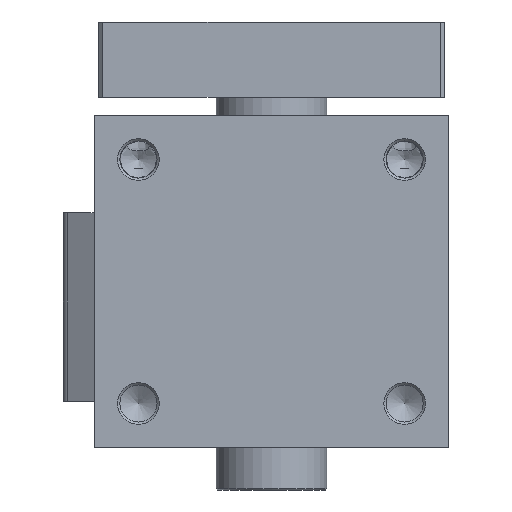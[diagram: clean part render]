
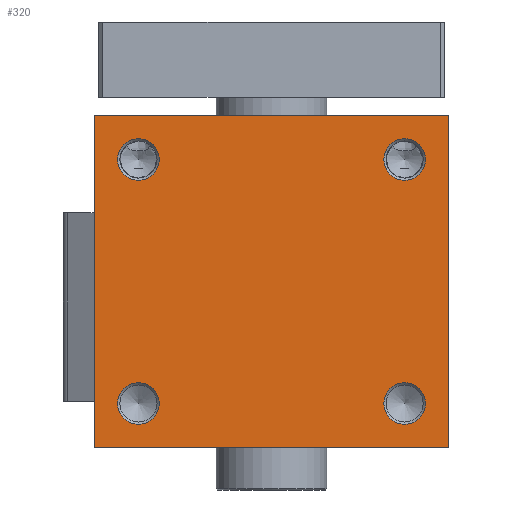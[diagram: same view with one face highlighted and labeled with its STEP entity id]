
A CAD part, left-side view. The second image highlights one B-rep face of the part: STEP entity #320.
In plain terms, the highlighted planar face has unit normal (-1, 0, 0).
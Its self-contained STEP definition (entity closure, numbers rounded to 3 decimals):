
#190=CARTESIAN_POINT('',(-81.641,-41.316,-10.5));
#191=VERTEX_POINT('',#190);
#198=CARTESIAN_POINT('',(-81.641,38.684,-10.5));
#199=VERTEX_POINT('',#198);
#200=CARTESIAN_POINT('',(-81.641,38.684,-10.5));
#201=DIRECTION('',(0.0,-1.0,0.0));
#202=VECTOR('',#201,80.0);
#203=LINE('',#200,#202);
#204=EDGE_CURVE('',#199,#191,#203,.T.);
#242=CARTESIAN_POINT('',(-81.641,28.684,59.188));
#243=VERTEX_POINT('',#242);
#244=CARTESIAN_POINT('',(-81.641,28.684,54.5));
#245=DIRECTION('',(-1.0,0.0,0.0));
#246=DIRECTION('',(0.0,0.0,-1.0));
#247=AXIS2_PLACEMENT_3D('',#244,#245,#246);
#248=CIRCLE('',#247,4.688);
#249=EDGE_CURVE('',#243,#243,#248,.T.);
#254=CARTESIAN_POINT('',(-81.641,-1.316,-10.5));
#255=DIRECTION('',(-1.0,0.0,0.0));
#256=DIRECTION('',(0.0,0.0,1.0));
#257=AXIS2_PLACEMENT_3D('',#254,#255,#256);
#258=PLANE('',#257);
#259=CARTESIAN_POINT('',(-81.641,-41.316,64.5));
#260=VERTEX_POINT('',#259);
#261=CARTESIAN_POINT('',(-81.641,-41.316,-10.5));
#262=DIRECTION('',(0.0,0.0,1.0));
#263=VECTOR('',#262,75.0);
#264=LINE('',#261,#263);
#265=EDGE_CURVE('',#191,#260,#264,.T.);
#266=ORIENTED_EDGE('',*,*,#265,.T.);
#267=CARTESIAN_POINT('',(-81.641,38.684,64.5));
#268=VERTEX_POINT('',#267);
#269=CARTESIAN_POINT('',(-81.641,38.684,64.5));
#270=DIRECTION('',(0.0,-1.0,0.0));
#271=VECTOR('',#270,80.0);
#272=LINE('',#269,#271);
#273=EDGE_CURVE('',#268,#260,#272,.T.);
#274=ORIENTED_EDGE('',*,*,#273,.F.);
#275=CARTESIAN_POINT('',(-81.641,38.684,64.5));
#276=DIRECTION('',(0.0,0.0,-1.0));
#277=VECTOR('',#276,75.0);
#278=LINE('',#275,#277);
#279=EDGE_CURVE('',#268,#199,#278,.T.);
#280=ORIENTED_EDGE('',*,*,#279,.T.);
#281=ORIENTED_EDGE('',*,*,#204,.T.);
#282=EDGE_LOOP('',(#266,#274,#280,#281));
#283=FACE_OUTER_BOUND('',#282,.T.);
#284=CARTESIAN_POINT('',(-81.641,-31.316,59.188));
#285=VERTEX_POINT('',#284);
#286=CARTESIAN_POINT('',(-81.641,-31.316,54.5));
#287=DIRECTION('',(-1.0,0.0,0.0));
#288=DIRECTION('',(0.0,0.0,-1.0));
#289=AXIS2_PLACEMENT_3D('',#286,#287,#288);
#290=CIRCLE('',#289,4.688);
#291=EDGE_CURVE('',#285,#285,#290,.T.);
#292=ORIENTED_EDGE('',*,*,#291,.F.);
#293=EDGE_LOOP('',(#292));
#294=FACE_BOUND('',#293,.T.);
#295=CARTESIAN_POINT('',(-81.641,-31.316,4.188));
#296=VERTEX_POINT('',#295);
#297=CARTESIAN_POINT('',(-81.641,-31.316,-0.5));
#298=DIRECTION('',(-1.0,0.0,0.0));
#299=DIRECTION('',(0.0,0.0,-1.0));
#300=AXIS2_PLACEMENT_3D('',#297,#298,#299);
#301=CIRCLE('',#300,4.688);
#302=EDGE_CURVE('',#296,#296,#301,.T.);
#303=ORIENTED_EDGE('',*,*,#302,.F.);
#304=EDGE_LOOP('',(#303));
#305=FACE_BOUND('',#304,.T.);
#306=CARTESIAN_POINT('',(-81.641,28.684,4.188));
#307=VERTEX_POINT('',#306);
#308=CARTESIAN_POINT('',(-81.641,28.684,-0.5));
#309=DIRECTION('',(-1.0,0.0,0.0));
#310=DIRECTION('',(0.0,0.0,-1.0));
#311=AXIS2_PLACEMENT_3D('',#308,#309,#310);
#312=CIRCLE('',#311,4.688);
#313=EDGE_CURVE('',#307,#307,#312,.T.);
#314=ORIENTED_EDGE('',*,*,#313,.F.);
#315=EDGE_LOOP('',(#314));
#316=FACE_BOUND('',#315,.T.);
#317=ORIENTED_EDGE('',*,*,#249,.F.);
#318=EDGE_LOOP('',(#317));
#319=FACE_BOUND('',#318,.T.);
#320=ADVANCED_FACE('',(#283,#294,#305,#316,#319),#258,.T.);
